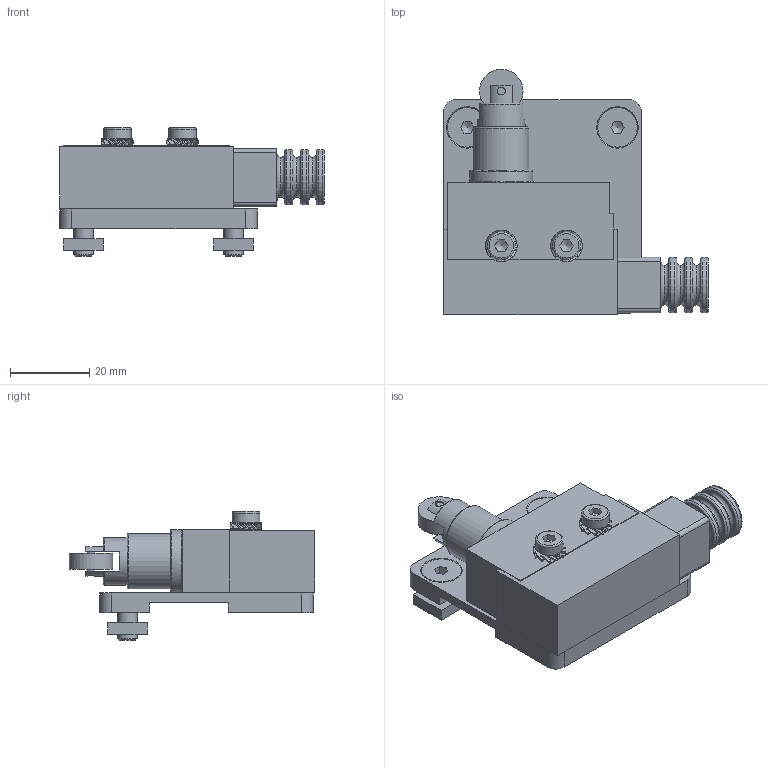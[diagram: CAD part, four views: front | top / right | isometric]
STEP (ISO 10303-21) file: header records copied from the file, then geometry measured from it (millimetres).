
FILE_DESCRIPTION (( 'STEP AP203' ), '1' );
FILE_NAME ('linke Ausführung für LES 6 - 216460 0003.STEP', '2016-11-24T07:39:16', ( '' ), ( '' ), 'SwSTEP 2.0', 'SolidWorks 2014', '' );
FILE_SCHEMA (( 'CONFIG_CONTROL_DESIGN' ));
Length unit declared in the file: millimetre
Products named in the file (1): linke Ausführung für LES 6 - 216460 0003
Bounding box: 67 x 62.1 x 32.63 mm (x, y, z)
Volume: 41151.7 mm3; surface area: 17990.2 mm2
Topology: 10 solids, 10 shells, 436 faces, 1175 edges, 772 vertices
Faces by surface type: plane 205, cylinder 186, torus 25, cone 16, bspline 4
Full cylindrical faces by diameter (mm): 2 x2, 2.1 x2, 3.3 x4, 4 x2, 4.2 x4, 4.3 x2, 5 x3, 6 x2, 7 x2, 7.5 x1, 8 x1, 10 x2, 11 x1, 12 x1, 14 x4, 16 x1
Entity records: 13631 total; most frequent: CARTESIAN_POINT 4003, ORIENTED_EDGE 2152, DIRECTION 1658, EDGE_CURVE 1076, VERTEX_POINT 748, AXIS2_PLACEMENT_3D 615, EDGE_LOOP 550, FACE_OUTER_BOUND 491
